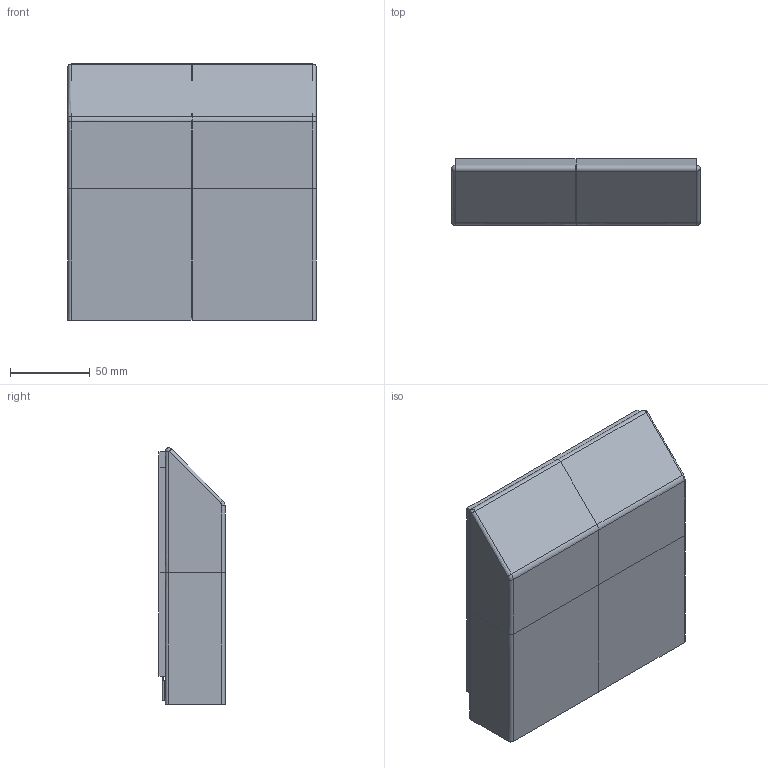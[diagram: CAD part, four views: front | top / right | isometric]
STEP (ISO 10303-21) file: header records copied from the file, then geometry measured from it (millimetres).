
FILE_DESCRIPTION(/* description */ (''),/* implementation_level */ '2;1');
FILE_NAME(/* name */ 'ssc-08 (x clienti)',/* time_stamp */ '2016-04-15T09:25:15+02:00',/* author */ (''),/* organization */ (''),/* preprocessor_version */ 'ST-DEVELOPER v10',/* originating_system */ '',/* authorisation */ '');
FILE_SCHEMA (('CONFIG_CONTROL_DESIGN'));
Length unit declared in the file: millimetre
Products named in the file (1): 1
Bounding box: 156 x 41.5 x 161 mm (x, y, z)
Volume: 64670.9 mm3; surface area: 116933.3 mm2
Topology: 12 solids, 12 shells, 202 faces, 472 edges, 294 vertices
Faces by surface type: bspline 132, plane 70
Entity records: 6678 total; most frequent: CARTESIAN_POINT 3792, ORIENTED_EDGE 944, EDGE_CURVE 472, VERTEX_POINT 294, ADVANCED_FACE 202, FACE_OUTER_BOUND 202, EDGE_LOOP 202, B_SPLINE_CURVE_WITH_KNOTS 200
